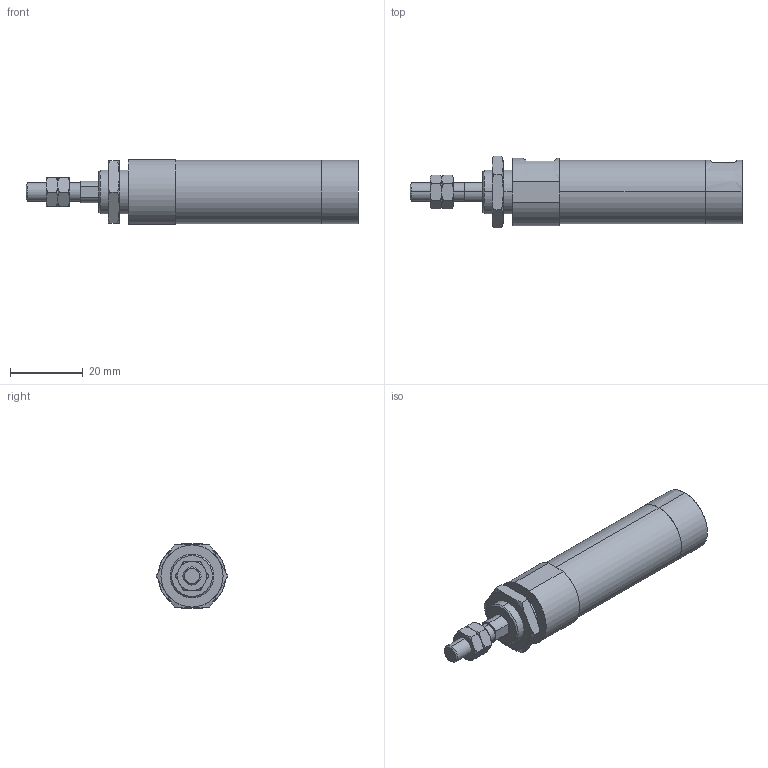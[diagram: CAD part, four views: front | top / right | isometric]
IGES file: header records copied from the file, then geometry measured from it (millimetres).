
Start section: SolidWorks IGES file using analytic representation for surfaces
Global section: file name: C:\Users\Toshiba\Desktop\ZGU2-16-15-N.IGS; native system: SolidWorks 2014; preprocessor: SolidWorks 2014; author: Toshiba; date: 160331.085740; units: millimetre
Bounding box: 91 x 19.63 x 17.6 mm (x, y, z)
Surface area: 5866.1 mm2 (no closed solid volume)
Topology: 0 solids, 0 shells, 108 faces, 1684 edges, 1680 vertices
Faces by surface type: bspline 77, revolution 31
